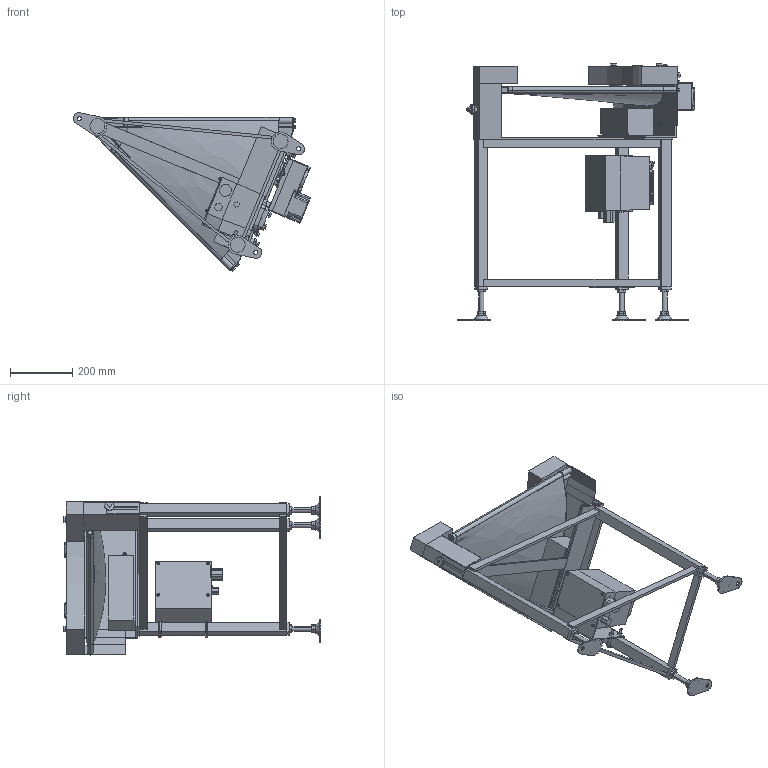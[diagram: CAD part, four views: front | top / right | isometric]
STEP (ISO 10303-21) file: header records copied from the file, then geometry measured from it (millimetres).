
FILE_DESCRIPTION( (''), '2;1');
FILE_NAME ('GFBC-HS-309-400-45°-R-DC-30.stp','2025-01-31T16:06:42',(''),(''),'spGate 20.6.2 (****-****-****-****)','','');
FILE_SCHEMA (('AUTOMOTIVE_DESIGN'));
Length unit declared in the file: millimetre
Products named in the file (66): NewModel; TEMP_X_T-prt0; TEMP_X_T-prt1; TEMP_X_T-prt2; TEMP_X_T-prt3; TEMP_X_T-prt4; TEMP_X_T-prt5; TEMP_X_T-prt6; TEMP_X_T-prt7; TEMP_X_T-prt8; TEMP_X_T-prt9; TEMP_X_T-prt10; TEMP_X_T-prt11; TEMP_X_T-prt12; TEMP_X_T-prt13; TEMP_X_T-prt14; TEMP_X_T-prt15; TEMP_X_T-prt16; TEMP_X_T-prt17; TEMP_X_T-prt18; TEMP_X_T-prt19; TEMP_X_T-prt20; TEMP_X_T-prt21; TEMP_X_T-prt22; TEMP_X_T-prt23; TEMP_X_T-prt24; TEMP_X_T-prt25; TEMP_X_T-prt26; TEMP_X_T-prt27; TEMP_X_T-prt28; TEMP_X_T-prt29; TEMP_X_T-prt30; TEMP_X_T-prt31; TEMP_X_T-prt32; TEMP_X_T-prt33; TEMP_X_T-prt34; TEMP_X_T-prt35; TEMP_X_T-prt36; TEMP_X_T-prt37; TEMP_X_T-prt38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
Assembly tree (65 placements, depth 2):
  NewModel
    TEMP_X_T-prt0
    TEMP_X_T-prt1
    TEMP_X_T-prt2
    TEMP_X_T-prt3
    TEMP_X_T-prt4
    TEMP_X_T-prt5
    TEMP_X_T-prt6
    TEMP_X_T-prt7
    TEMP_X_T-prt8
    TEMP_X_T-prt9
    TEMP_X_T-prt10
    TEMP_X_T-prt11
    TEMP_X_T-prt12
    TEMP_X_T-prt13
    TEMP_X_T-prt14
    TEMP_X_T-prt15
    TEMP_X_T-prt16
    TEMP_X_T-prt17
    TEMP_X_T-prt18
    TEMP_X_T-prt19
    TEMP_X_T-prt20
    TEMP_X_T-prt21
    TEMP_X_T-prt22
    TEMP_X_T-prt23
    TEMP_X_T-prt24
    TEMP_X_T-prt25
    TEMP_X_T-prt26
    TEMP_X_T-prt27
    TEMP_X_T-prt28
    TEMP_X_T-prt29
    TEMP_X_T-prt30
    TEMP_X_T-prt31
    TEMP_X_T-prt32
    TEMP_X_T-prt33
    TEMP_X_T-prt34
    TEMP_X_T-prt35
    TEMP_X_T-prt36
    TEMP_X_T-prt37
    TEMP_X_T-prt38
    TEMP_X_T-prt39
    TEMP_X_T-prt40
    TEMP_X_T-prt41
    TEMP_X_T-prt42
    TEMP_X_T-prt43
    TEMP_X_T-prt44
    TEMP_X_T-prt45
    TEMP_X_T-prt46
    TEMP_X_T-prt47
    TEMP_X_T-prt48
    TEMP_X_T-prt49
    TEMP_X_T-prt50
    TEMP_X_T-prt51
    TEMP_X_T-prt52
    TEMP_X_T-prt53
    TEMP_X_T-prt54
    TEMP_X_T-prt55
    TEMP_X_T-prt56
    TEMP_X_T-prt57
    TEMP_X_T-prt58
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Bounding box: 761.81 x 827.92 x 509.37 mm (x, y, z)
Volume: 14852048.8 mm3; surface area: 2683732.3 mm2
Topology: 65 solids, 65 shells, 1395 faces, 3282 edges, 2103 vertices
Faces by surface type: plane 877, cylinder 406, bspline 108, sphere 4
Entity records: 75145 total; most frequent: CARTESIAN_POINT 13994, DIRECTION 6837, ORIENTED_EDGE 6502, COLOUR_RGB 4710, PRESENTATION_STYLE_ASSIGNMENT 4710, STYLED_ITEM 4710, EDGE_CURVE 3251, DRAUGHTING_PRE_DEFINED_CURVE_FONT 3251
